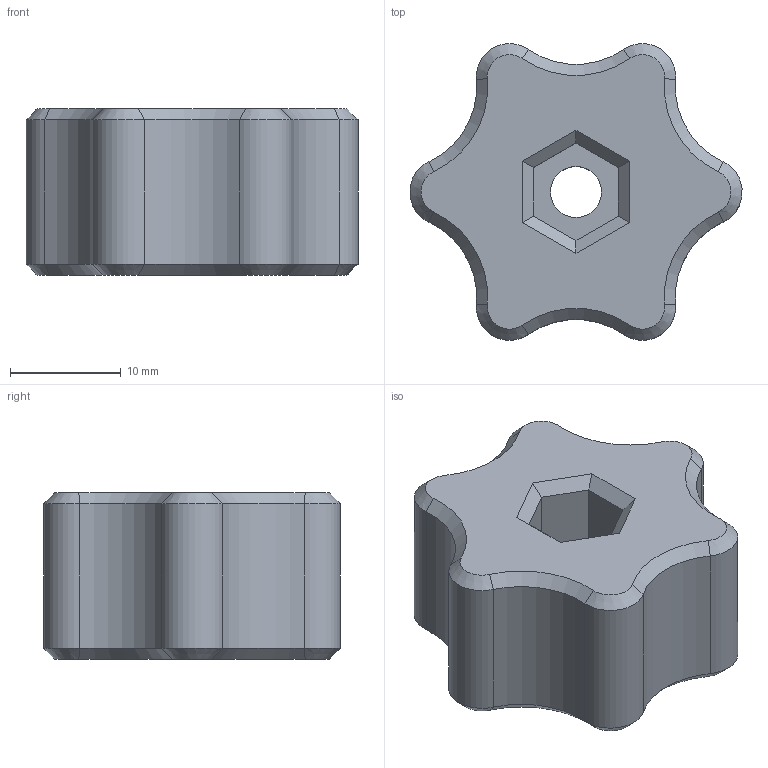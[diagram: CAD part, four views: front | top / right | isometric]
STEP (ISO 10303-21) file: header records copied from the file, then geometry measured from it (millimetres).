
FILE_DESCRIPTION(/* description */ (''),/* implementation_level */ '2;1');
FILE_NAME(/* name */ 'C:/Users/Brien.ALLISON/3D Objects/3D Objects/3D Print Files/My models/Miscellaneous/Monitor Camera mount/CMM Knob.step',/* time_stamp */ '2019-05-02T16:12:47+01:00',/* author */ ('brienallison'),/* organization */ (''),/* preprocessor_version */ 'ST-DEVELOPER v18',/* originating_system */ 'Autodesk Translation Framework v8.2.0.1029',/* authorisation */ '');
FILE_SCHEMA (('AUTOMOTIVE_DESIGN { 1 0 10303 214 3 1 1 }'));
Length unit declared in the file: millimetre
Products named in the file (1): Camera mount
Bounding box: 29.94 x 26.73 x 15 mm (x, y, z)
Volume: 7487.9 mm3; surface area: 2639.8 mm2
Topology: 1 solids, 1 shells, 53 faces, 119 edges, 69 vertices
Faces by surface type: cone 25, plane 15, cylinder 13
Full cylindrical faces by diameter (mm): 4.6 x1
Entity records: 1493 total; most frequent: DIRECTION 278, CARTESIAN_POINT 242, ORIENTED_EDGE 238, EDGE_CURVE 119, AXIS2_PLACEMENT_3D 105, VERTEX_POINT 69, LINE 68, VECTOR 68
